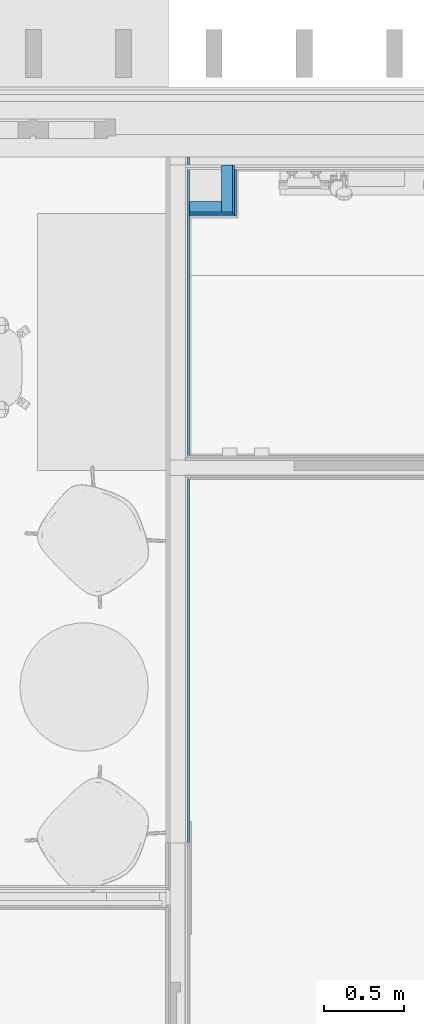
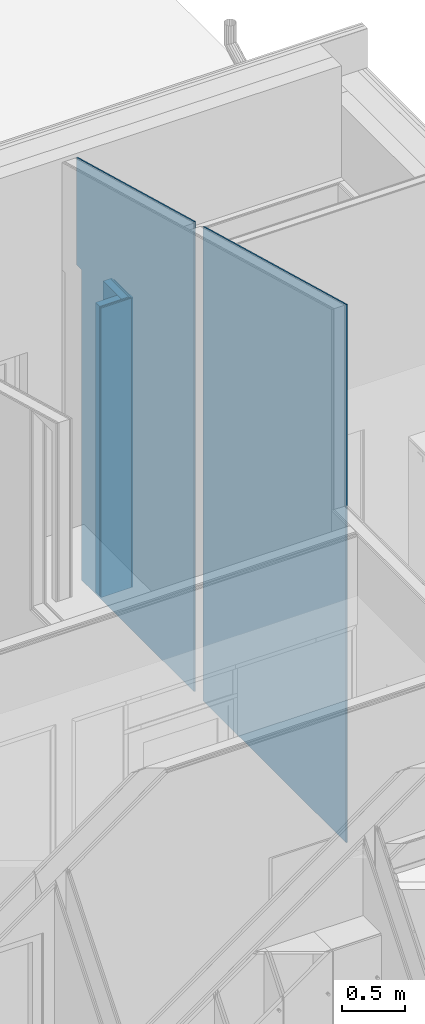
# One storey, part 88 of 153: 7 building element parts, 3 elements without a shape of their own.
"""IFC2X3 building model written with IfcOpenShell, lengths in millimetres."""

import ifcopenshell
import ifcopenshell.guid

model = None  # the IFC model being written
_history = None  # IfcOwnerHistory: only IFC2X3 demands one
_inside = {}  # id of a spatial element -> (the spatial element, [elements in it])
_under = {}  # id of a project, library or spatial element -> (it, [spatial elements below it])
_declared = {}  # id of a project -> (the project, [libraries it declares])
_typed = {}  # id of a type object -> (the type object, [elements of that type])
_made_of = {}  # id of a material, layer set ... -> (it, [elements and type objects made of it])


def new_model(schema):
    """Start an empty IFC model of exactly this schema.

    Asked for "IFC4X3", IfcOpenShell would pick the latest addendum, in which some entities
    have other attributes; the version numbers below select the first issue.
    IFC2X3 requires an IfcOwnerHistory on every rooted entity: one is made here for all.
    """
    global model, _history
    if schema == "IFC4X3":
        model = ifcopenshell.file(schema_version=(4, 3, 0, 0))
    else:
        model = ifcopenshell.file(schema=schema)
    _inside.clear()
    _under.clear()
    _declared.clear()
    _typed.clear()
    _made_of.clear()
    _history = None
    if model.schema == "IFC2X3":
        org = make("IfcOrganization", Name="unknown")
        user = make(
            "IfcPersonAndOrganization",
            ThePerson=make("IfcPerson", FamilyName="unknown"),
            TheOrganization=org,
        )
        app = make(
            "IfcApplication",
            ApplicationDeveloper=org,
            Version="unknown",
            ApplicationFullName="unknown",
            ApplicationIdentifier="unknown",
        )
        _history = make(
            "IfcOwnerHistory",
            OwningUser=user,
            OwningApplication=app,
            ChangeAction="ADDED",
            CreationDate=0,
        )
    return model


def make(cls, **values):
    """One entity of the class cls with the attributes given. An attribute that is None is left unset."""
    return model.create_entity(
        cls, **{name: value for name, value in values.items() if value is not None}
    )


def entity(cls, *values):
    """Any entity or typed value of the class cls, its attributes in the order of the schema. None: left unset."""
    e = model.create_entity(cls)
    for i, value in enumerate(values):
        if value is not None:
            e[i] = value
    return e


def rooted(cls, **values):
    """An entity with a GlobalId (a new one), such as an element, a storey or a relation."""
    return make(cls, GlobalId=ifcopenshell.guid.new(), OwnerHistory=_history, **values)


def si_unit(unit_type, name, prefix=None):
    """IfcSIUnit, for example si_unit("LENGTHUNIT", "METRE", prefix="MILLI")."""
    return make("IfcSIUnit", UnitType=unit_type, Prefix=prefix, Name=name)


def converted_unit(unit_type, name, factor, base, dimensions=None, offset=None):
    """IfcConversionBasedUnit, such as the inch: factor (a typed value) times the base unit."""
    return make(
        "IfcConversionBasedUnit"
        if offset is None
        else "IfcConversionBasedUnitWithOffset",
        ConversionOffset=offset,
        Dimensions=None
        if dimensions is None
        else entity("IfcDimensionalExponents", *dimensions),
        UnitType=unit_type,
        Name=name,
        ConversionFactor=make(
            "IfcMeasureWithUnit", ValueComponent=factor, UnitComponent=base
        ),
    )


def derived_unit(unit_type, elements):
    """IfcDerivedUnit: a product of units, each with its exponent."""
    return make(
        "IfcDerivedUnit",
        Elements=[
            make("IfcDerivedUnitElement", Unit=unit, Exponent=power)
            for unit, power in elements
        ],
        UnitType=unit_type,
    )


def money_unit(currency):
    """IfcMonetaryUnit."""
    return make("IfcMonetaryUnit", Currency=currency)


def assignment(units):
    """IfcUnitAssignment: the units of a project."""
    return None if units is None else make("IfcUnitAssignment", Units=units)


def point(xyz):
    """IfcCartesianPoint."""
    return None if xyz is None else make("IfcCartesianPoint", Coordinates=xyz)


def direction(xyz):
    """IfcDirection."""
    return None if xyz is None else make("IfcDirection", DirectionRatios=xyz)


def frame(location, z_axis=None, x_axis=None):
    """IfcAxis2Placement3D, a coordinate frame: its origin and axes. An axis left out is left unset."""
    return make(
        "IfcAxis2Placement3D",
        Location=point(location),
        Axis=direction(z_axis),
        RefDirection=direction(x_axis),
    )


def origin_with_axes():
    """The frame at (0, 0, 0) with the z axis (0, 0, 1) and the x axis (1, 0, 0) written out."""
    return frame((0.0, 0.0, 0.0), z_axis=(0.0, 0.0, 1.0), x_axis=(1.0, 0.0, 0.0))


def place(relative_to, where):
    """IfcLocalPlacement: puts the frame where relative to a parent placement (None: the world)."""
    return make(
        "IfcLocalPlacement", PlacementRelTo=relative_to, RelativePlacement=where
    )


def context(
    kind, dimensions, precision=None, world=None, true_north=None, identifier=None
):
    """IfcGeometricRepresentationContext, for example the 3D "Model" context."""
    return make(
        "IfcGeometricRepresentationContext",
        ContextIdentifier=identifier,
        ContextType=kind,
        CoordinateSpaceDimension=dimensions,
        Precision=precision,
        WorldCoordinateSystem=world,
        TrueNorth=true_north,
    )


def subcontext(parent, identifier, kind, view, scale=None):
    """IfcGeometricRepresentationSubContext, for example "Body" below "Model"."""
    return make(
        "IfcGeometricRepresentationSubContext",
        ContextIdentifier=identifier,
        ContextType=kind,
        ParentContext=parent,
        TargetScale=scale,
        TargetView=view,
    )


def project(units=None, contexts=None):
    """IfcProject with its units and contexts."""
    return rooted(
        "IfcProject",
        Name="project",
        RepresentationContexts=contexts,
        UnitsInContext=assignment(units),
    )


def spatial(cls, under=None, at=None, **own):
    """A site, building, storey or space (cls), placed at a placement, below another one or the project."""
    s = rooted(cls, ObjectPlacement=at, **own)
    if under is not None:
        _under.setdefault(under.id(), (under, []))[1].append(s)
    return s


def faces_of(points, faces, orient=None, outer=None):
    """IfcFace entities. A face is a list of loops; a loop is a list of indices into points, from 0.

    orient and outer hold one flag for each loop. By default every Orientation is true, the
    first loop of a face is its IfcFaceOuterBound and the others are IfcFaceBound.
    """
    made = []
    for i, loops in enumerate(faces):
        bounds = []
        for j, loop in enumerate(loops):
            is_outer = j == 0 if outer is None else outer[i][j]
            bounds.append(
                make(
                    "IfcFaceOuterBound" if is_outer else "IfcFaceBound",
                    Bound=make("IfcPolyLoop", Polygon=[points[k] for k in loop]),
                    Orientation=True if orient is None else orient[i][j],
                )
            )
        made.append(make("IfcFace", Bounds=bounds))
    return made


def faceted_brep(points, faces, orient=None, outer=None, voids=None):
    """IfcFacetedBrep: a solid bounded by flat faces; with voids (closed shells), ...WithVoids."""
    shared = [point(p) for p in points]
    hull = make("IfcClosedShell", CfsFaces=faces_of(shared, faces, orient, outer))
    if voids is None:
        return make("IfcFacetedBrep", Outer=hull)
    return make(
        "IfcFacetedBrepWithVoids",
        Outer=hull,
        Voids=[
            make(cls, CfsFaces=faces_of(shared, fs, o, b)) for cls, fs, o, b in voids
        ],
    )


def shape(context_of_items, identifier, shape_type, items):
    """IfcShapeRepresentation: the items that make up one representation, for example the "Body"."""
    return make(
        "IfcShapeRepresentation",
        ContextOfItems=context_of_items,
        RepresentationIdentifier=identifier,
        RepresentationType=shape_type,
        Items=items,
    )


def material(Name=None, Category=None):
    """IfcMaterial."""
    return make("IfcMaterial", Name=Name, Category=Category)


def made_of(thing, what):
    """Note that an element or type object is made of a material, layer set ...; save() writes the relation."""
    if what is not None:
        _made_of.setdefault(what.id(), (what, []))[1].append(thing)
    return thing


def type_object(cls, material=None, **own):
    """A type object (cls), such as IfcWallType, which elements share."""
    return made_of(rooted(cls, **own), material)


def element(
    cls,
    number,
    at=None,
    inside=None,
    cuts=None,
    type_object=None,
    material=None,
    context=None,
    identifier="Body",
    shape_type=None,
    held_by="IfcProductDefinitionShape",
    body=None,
    shapes=None,
    **own,
):
    """One element of the class cls, such as IfcWall. Its Tag is "e" and its number.

    at: its placement. inside: the storey or other place that contains it. cuts: it is an
    opening in that element (IfcRelVoidsElement). A single representation is given by context,
    identifier, shape_type and body (its items); several are given by shapes. held_by: the class
    of the entity that holds the representations. save() writes the other relations.
    """
    e = rooted(cls, Tag="e%d" % number, ObjectPlacement=at, **own)
    if body is not None:
        shapes = [shape(context, identifier, shape_type, body)]
    if shapes is not None:
        e.Representation = make(held_by, Representations=shapes)
    if inside is not None:
        _inside.setdefault(inside.id(), (inside, []))[1].append(e)
    if cuts is not None:
        rooted(
            "IfcRelVoidsElement", RelatingBuildingElement=cuts, RelatedOpeningElement=e
        )
    if type_object is not None:
        _typed.setdefault(type_object.id(), (type_object, []))[1].append(e)
    return made_of(e, material)


def aggregate(whole, parts):
    """IfcRelAggregates: a whole, such as a stair, and the parts it consists of."""
    return rooted("IfcRelAggregates", RelatingObject=whole, RelatedObjects=parts)


def save(model, path):
    """Write the relations noted so far, then the file.

    IfcRelAggregates (storeys below a building ...), IfcRelContainedInSpatialStructure (elements
    in a storey), IfcRelDefinesByType, IfcRelAssociatesMaterial and IfcRelDeclares: one each for
    every whole, place, type object, material and project.
    """
    for whole, parts in _under.values():
        aggregate(whole, parts)
    for where, things in _inside.values():
        rooted(
            "IfcRelContainedInSpatialStructure",
            RelatedElements=things,
            RelatingStructure=where,
        )
    for kind, things in _typed.values():
        rooted("IfcRelDefinesByType", RelatedObjects=things, RelatingType=kind)
    for what, things in _made_of.values():
        rooted("IfcRelAssociatesMaterial", RelatedObjects=things, RelatingMaterial=what)
    for by, libraries in _declared.values():
        rooted("IfcRelDeclares", RelatingContext=by, RelatedDefinitions=libraries)
    model.write(path)


model = new_model("IFC2X3")

# Units and contexts
model_context = context("Model", 3, precision=0.01, world=origin_with_axes(), true_north=direction((0.0, 1.0)))
body_context = subcontext(model_context, "Body", "Model", "MODEL_VIEW")
ifc_project = project(units=[si_unit("LENGTHUNIT", "METRE", prefix="MILLI"), si_unit("AREAUNIT", "SQUARE_METRE"), si_unit("VOLUMEUNIT", "CUBIC_METRE"), converted_unit("PLANEANGLEUNIT", "DEGREE", entity("IfcPlaneAngleMeasure", 0.0174532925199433), si_unit("PLANEANGLEUNIT", "RADIAN"), dimensions=[0, 0, 0, 0, 0, 0, 0]), money_unit("EUR"), converted_unit("TIMEUNIT", "Year", entity("IfcTimeMeasure", 31557600.0), si_unit("TIMEUNIT", "SECOND"), dimensions=[0, 0, 1, 0, 0, 0, 0]), si_unit("MASSUNIT", "GRAM", prefix="KILO"), si_unit("THERMODYNAMICTEMPERATUREUNIT", "DEGREE_CELSIUS"), si_unit("LUMINOUSINTENSITYUNIT", "LUMEN"), si_unit("ENERGYUNIT", "JOULE", prefix="MEGA"), derived_unit("THERMALCONDUCTANCEUNIT", [(si_unit("POWERUNIT", "WATT"), 1), (si_unit("LENGTHUNIT", "METRE"), -1), (si_unit("THERMODYNAMICTEMPERATUREUNIT", "KELVIN"), -1)]), derived_unit("SPECIFICHEATCAPACITYUNIT", [(si_unit("ENERGYUNIT", "JOULE"), 1), (si_unit("MASSUNIT", "GRAM", prefix="KILO"), -1), (si_unit("THERMODYNAMICTEMPERATUREUNIT", "KELVIN"), -1)]), derived_unit("MASSDENSITYUNIT", [(si_unit("MASSUNIT", "GRAM", prefix="KILO"), 1), (si_unit("VOLUMEUNIT", "CUBIC_METRE"), -1)])], contexts=[model_context])

# Site, building, storey
site_placement = place(None, frame((0.0, 0.0, 8650.0), z_axis=(0.0, 0.0, 1.0), x_axis=(1.0, 0.0, 0.0)))
site = spatial("IfcSite", under=ifc_project, at=site_placement, Name="43301:001:0844", CompositionType="ELEMENT")
building_placement = place(site_placement, origin_with_axes())
building = spatial("IfcBuilding", under=site, at=building_placement, Name="Kuressaare Ametikooli tuulikute mehaanikute õppekorpus", CompositionType="ELEMENT")
storey_placement = place(building_placement, frame((0.0, 0.0, 4100.0), z_axis=(0.0, 0.0, 1.0), x_axis=(1.0, 0.0, 0.0)))
storey = spatial("IfcBuildingStorey", under=building, at=storey_placement, Name="2.korrus", CompositionType="ELEMENT", Elevation=4100.0)

# Wall, building element parts
wall_type_1 = type_object("IfcWallType", Name="SS-2.4 92", PredefinedType="NOTDEFINED")
wall_1_placement = place(storey_placement, frame((130815.0683571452, 28168.06892395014, 0.0), z_axis=(0.0, 0.0, 1.0), x_axis=(0.0, -1.0, 0.0)))
wall_1 = element("IfcWall", 1, at=wall_1_placement, inside=storey, type_object=wall_type_1, Name="Sisesein")
ifc_material_1 = material(Name="Plaster - Gypsum")
building_element_part_1_placement = place(wall_1_placement, origin_with_axes())
building_element_part_1 = element("IfcBuildingElementPart", 2, at=building_element_part_1_placement, material=ifc_material_1, Name="Plaster - Gypsum", context=body_context, shape_type="Brep", body=[
    faceted_brep([(291.9999999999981, 92.00000000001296, 2799.999999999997), (0.0, 92.00000000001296, 2799.999999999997), (0.0, 79.00000000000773, 2799.999999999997), (291.9999999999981, 79.00000000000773, 2799.999999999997), (291.9999999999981, 92.00000000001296, 0.0), (0.0, 92.00000000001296, 0.0), (0.0, 79.00000000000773, 0.0), (291.9999999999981, 79.00000000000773, 0.0)], [[[0, 1, 2, 3]], [[4, 5, 1, 0]], [[2, 1, 5, 6]], [[3, 2, 6, 7]], [[3, 7, 4, 0]], [[7, 6, 5, 4]]]),
])
ifc_material_2 = material(Name="Plywood")
building_element_part_2_placement = place(wall_1_placement, origin_with_axes())
building_element_part_2 = element("IfcBuildingElementPart", 3, at=building_element_part_2_placement, material=ifc_material_2, Name="Plywood", context=body_context, shape_type="Brep", body=[
    faceted_brep([(278.9999999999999, 79.00000000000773, 2799.999999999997), (-25.9999999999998, 79.00000000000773, 2799.999999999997), (-25.9999999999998, 66.0000000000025, 2799.999999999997), (278.9999999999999, 66.0000000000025, 2799.999999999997), (278.9999999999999, 79.00000000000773, 0.0), (-25.9999999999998, 79.00000000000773, 0.0), (-25.9999999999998, 66.0000000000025, 0.0), (278.9999999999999, 66.0000000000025, 0.0)], [[[0, 1, 2, 3]], [[4, 5, 1, 0]], [[2, 1, 5, 6]], [[3, 2, 6, 7]], [[3, 7, 4, 0]], [[7, 6, 5, 4]]]),
])
ifc_material_3 = material(Name="Air Space - Frame")
building_element_part_3_placement = place(wall_1_placement, origin_with_axes())
building_element_part_3 = element("IfcBuildingElementPart", 4, at=building_element_part_3_placement, material=ifc_material_3, Name="Air Space - Frame", context=body_context, shape_type="Brep", body=[
    faceted_brep([(265.9999999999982, 66.0000000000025, 2799.999999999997), (-25.9999999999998, 66.0000000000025, 2799.999999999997), (-25.9999999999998, 0.0, 2799.999999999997), (265.9999999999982, 0.0, 2799.999999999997), (265.9999999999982, 66.0000000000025, 0.0), (-25.9999999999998, 66.0000000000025, 0.0), (-25.9999999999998, 0.0, 0.0), (265.9999999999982, 0.0, 0.0)], [[[0, 1, 2, 3]], [[4, 5, 1, 0]], [[2, 1, 5, 6]], [[3, 2, 6, 7]], [[3, 7, 4, 0]], [[7, 6, 5, 4]]]),
])
aggregate(wall_1, [building_element_part_1, building_element_part_2, building_element_part_3])

wall_2_placement = place(storey_placement, frame((130815.0683571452, 27968.06892395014, 0.0), z_axis=(0.0, 0.0, 1.0), x_axis=(-1.0, 0.0, 0.0)))
wall_2 = element("IfcWall", 5, at=wall_2_placement, inside=storey, type_object=wall_type_1, Name="Sisesein")
building_element_part_4_placement = place(wall_2_placement, origin_with_axes())
building_element_part_4 = element("IfcBuildingElementPart", 6, at=building_element_part_4_placement, material=ifc_material_1, Name="Plaster - Gypsum", context=body_context, shape_type="Brep", body=[
    faceted_brep([(199.9999999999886, 79.00000000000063, 2799.999999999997), (199.9999999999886, 91.99999999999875, 2799.999999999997), (-79.00000000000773, 91.99999999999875, 2799.999999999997), (-79.00000000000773, 79.00000000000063, 2799.999999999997), (199.9999999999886, 79.00000000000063, 0.0), (199.9999999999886, 91.99999999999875, 0.0), (-79.00000000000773, 91.99999999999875, 0.0), (-79.00000000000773, 79.00000000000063, 0.0)], [[[0, 1, 2, 3]], [[0, 4, 5, 1]], [[1, 5, 6, 2]], [[3, 2, 6, 7]], [[4, 0, 3, 7]], [[5, 4, 7, 6]]]),
])
building_element_part_5_placement = place(wall_2_placement, origin_with_axes())
building_element_part_5 = element("IfcBuildingElementPart", 7, at=building_element_part_5_placement, material=ifc_material_2, Name="Plywood", context=body_context, shape_type="Brep", body=[
    faceted_brep([(199.9999999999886, 65.99999999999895, 2799.999999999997), (199.9999999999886, 79.00000000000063, 2799.999999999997), (-66.0000000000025, 79.00000000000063, 2799.999999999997), (-66.0000000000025, 65.99999999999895, 2799.999999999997), (199.9999999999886, 65.99999999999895, 0.0), (199.9999999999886, 79.00000000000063, 0.0), (-66.0000000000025, 79.00000000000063, 0.0), (-66.0000000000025, 65.99999999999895, 0.0)], [[[0, 1, 2, 3]], [[0, 4, 5, 1]], [[1, 5, 6, 2]], [[3, 2, 6, 7]], [[4, 0, 3, 7]], [[5, 4, 7, 6]]]),
])
building_element_part_6_placement = place(wall_2_placement, origin_with_axes())
building_element_part_6 = element("IfcBuildingElementPart", 8, at=building_element_part_6_placement, material=ifc_material_3, Name="Air Space - Frame", context=body_context, shape_type="Brep", body=[
    faceted_brep([(199.9999999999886, 0.0, 2799.999999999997), (199.9999999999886, 65.99999999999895, 2799.999999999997), (0.0, 65.99999999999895, 2799.999999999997), (0.0, 0.0, 2799.999999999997), (199.9999999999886, 0.0, 0.0), (199.9999999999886, 65.99999999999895, 0.0), (0.0, 65.99999999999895, 0.0), (0.0, 0.0, 0.0)], [[[0, 1, 2, 3]], [[0, 4, 5, 1]], [[1, 5, 6, 2]], [[3, 2, 6, 7]], [[4, 0, 3, 7]], [[5, 4, 7, 6]]]),
])
aggregate(wall_2, [building_element_part_4, building_element_part_5, building_element_part_6])

# Wall, building element part
wall_type_2 = type_object("IfcWallType", Name="SS-2.2 147", PredefinedType="NOTDEFINED")
wall_3_placement = place(storey_placement, frame((130468.0683571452, 23974.06870154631, 0.0), z_axis=(0.0, 0.0, 1.0), x_axis=(0.0, 1.0, 0.0)))
wall_3 = element("IfcWall", 9, at=wall_3_placement, inside=storey, type_object=wall_type_2, Name="Sisesein")
ifc_material_4 = material(Name="Kipsplaat")
building_element_part_7_placement = place(wall_3_placement, origin_with_axes())
building_element_part_7 = element("IfcBuildingElementPart", 10, at=building_element_part_7_placement, material=ifc_material_4, Name="Kipsplaat", context=body_context, shape_type="Brep", body=[
    faceted_brep([(4270.000222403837, -133.9999999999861, 4037.106184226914), (4270.000222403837, -146.9999999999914, 4037.106183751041), (4270.000222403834, -146.9999999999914, 3000.0), (4270.000222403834, -133.9999999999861, 3000.0), (2410.000222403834, -146.9999999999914, 4545.316709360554), (2410.000222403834, -133.9999999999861, 4545.316709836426), (2410.000222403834, -146.9999999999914, 0.0), (4194.000222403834, -146.9999999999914, 0.0), (4194.000222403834, -146.9999999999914, 3000.0), (4194.000222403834, -133.9999999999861, 3000.0), (4194.000222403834, -133.9999999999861, 0.0), (2410.000222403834, -133.9999999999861, 0.0)], [[[0, 1, 2, 3]], [[4, 1, 0, 5]], [[1, 4, 6, 7, 8, 2]], [[3, 2, 8, 9]], [[5, 0, 3, 9, 10, 11]], [[4, 5, 11, 6]], [[11, 10, 7, 6]], [[9, 8, 7, 10]]]),
    faceted_brep([(2263.000222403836, -133.9999999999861, 4585.4817352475), (2263.000222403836, -146.9999999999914, 4585.481734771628), (2263.000222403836, -146.9999999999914, 0.0), (2263.000222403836, -133.9999999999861, 0.0), (0.0, -146.9999999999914, 5203.804601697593), (0.0, -133.9999999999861, 5203.804602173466), (0.0, -146.9999999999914, 0.0), (0.0, -133.9999999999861, 0.0)], [[[0, 1, 2, 3]], [[4, 1, 0, 5]], [[1, 4, 6, 2]], [[6, 7, 3, 2]], [[5, 0, 3, 7]], [[4, 5, 7, 6]]]),
])
aggregate(wall_3, [building_element_part_7])

save(model, "model.ifc")
